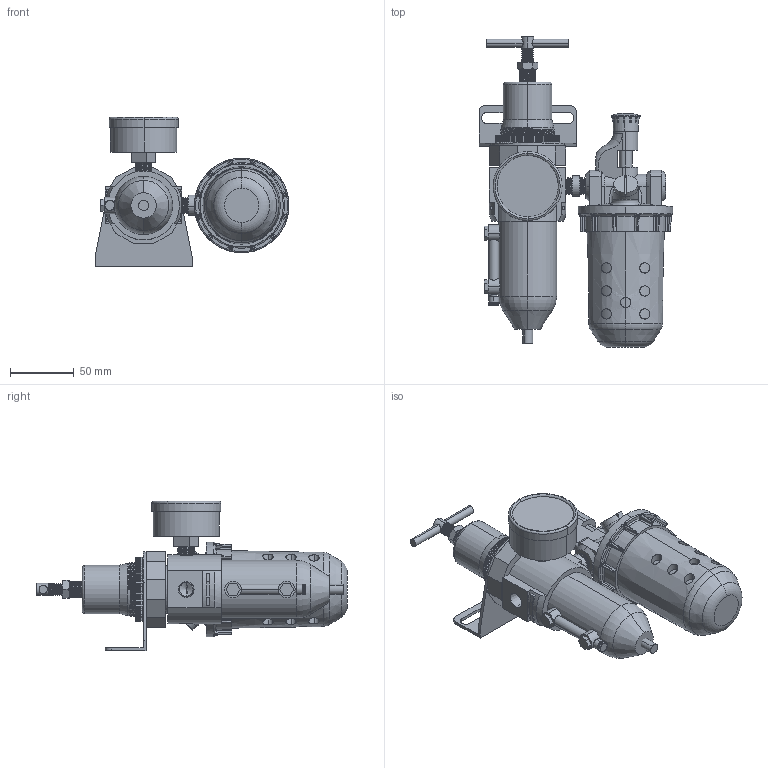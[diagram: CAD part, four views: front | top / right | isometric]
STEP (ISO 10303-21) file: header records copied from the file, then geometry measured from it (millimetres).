
FILE_DESCRIPTION (( 'STEP AP203' ), '1' );
FILE_NAME ('U668-02#YB#.STEP', '2016-01-14T17:15:53', ( '' ), ( '' ), 'SwSTEP 2.0', 'SolidWorks 2014', '' );
FILE_SCHEMA (( 'CONFIG_CONTROL_DESIGN' ));
Length unit declared in the file: millimetre
Products named in the file (25): L606-02; R119-02-7; 50-P-AD=1-4PT-2; B012W-02#YGB#; 50-P-AD=1-4PT.SLDPRT; U668-02#YB#; D011W-6; L606-W-06-5; R011-1; D011W-04-刻度計; R119-02-6; 1-4-圓; L606-W-06-3; R119-02-5; 50-P-AD=1-4PT-1; R011-上半部; KWSAR10Y57-1; B011W-1; KWSAR10Y57; D011W-4; L606-W-06-4; KWR10X51; L606-W-04-1; D011W-5
Assembly tree (26 placements, depth 5):
  U668-02#YB#
    B012W-02#YGB#
      B011W-1
      50-P-AD=1-4PT.SLDPRT
        50-P-AD=1-4PT-1
        50-P-AD=1-4PT-2
      L606-W-06-5
      D011W-04-刻度計
        D011W-5  x2
        D011W-4
        D011W-6
      R011-上半部
        KWSAR10Y57
          KWSAR10Y57-1
          KWR10X51
        R011-1
        R119-02-5
        R119-02-6
        R119-02-7
    L606-02
      L606-W-06-4
      L606-W-06-3  x2
      L606-W-04-1
      L606-02
    1-4-圓
Bounding box: 151.75 x 243 x 117 mm (x, y, z)
Volume: 775063.7 mm3; surface area: 120387.7 mm2
Topology: 20 solids, 20 shells, 1233 faces, 3301 edges, 2113 vertices
Faces by surface type: plane 583, cylinder 348, cone 118, bspline 117, torus 37, sphere 30
Entity records: 57033 total; most frequent: CARTESIAN_POINT 25706, ORIENTED_EDGE 6446, DIRECTION 5498, EDGE_CURVE 3223, VERTEX_POINT 2085, AXIS2_PLACEMENT_3D 1920, LINE 1658, VECTOR 1658
